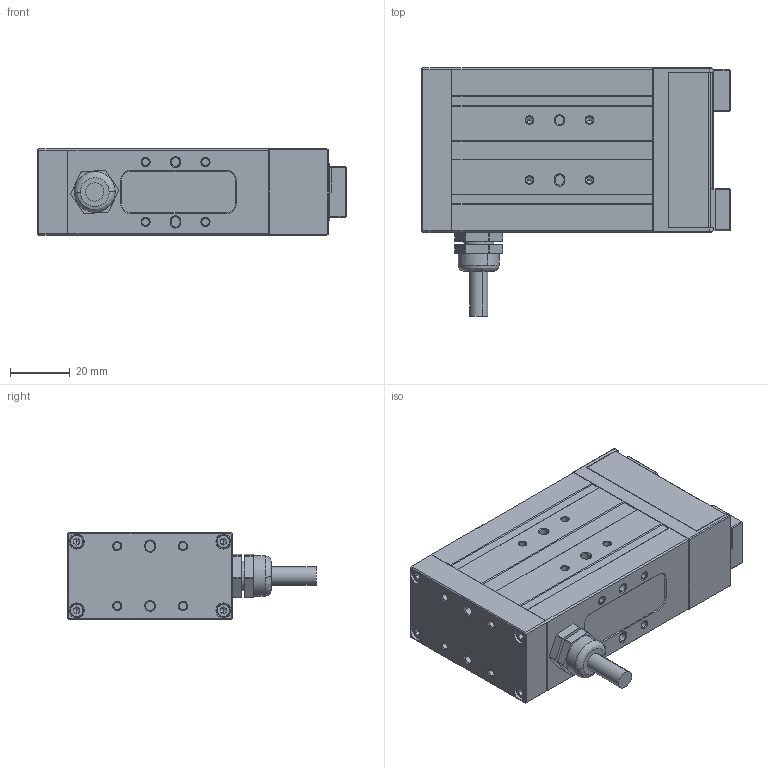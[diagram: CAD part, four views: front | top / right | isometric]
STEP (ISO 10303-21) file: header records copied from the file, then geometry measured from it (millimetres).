
FILE_DESCRIPTION (( 'STEP AP203' ), '1' );
FILE_NAME ('Z-EFG-26P.STEP', '2022-01-11T09:08:47', ( '' ), ( '' ), 'SwSTEP 2.0', 'SolidWorks 2018', '' );
FILE_SCHEMA (( 'CONFIG_CONTROL_DESIGN' ));
Length unit declared in the file: millimetre
Products named in the file (1): Z-EFG-26P
Bounding box: 103 x 83 x 29 mm (x, y, z)
Volume: 152538.9 mm3; surface area: 30434.9 mm2
Topology: 4 solids, 14 shells, 771 faces, 1853 edges, 1143 vertices
Faces by surface type: plane 407, cylinder 188, cone 166, bspline 10
Entity records: 22812 total; most frequent: CARTESIAN_POINT 4699, DIRECTION 3851, ORIENTED_EDGE 3650, EDGE_CURVE 1825, AXIS2_PLACEMENT_3D 1371, VERTEX_POINT 1143, LINE 1109, VECTOR 1109
